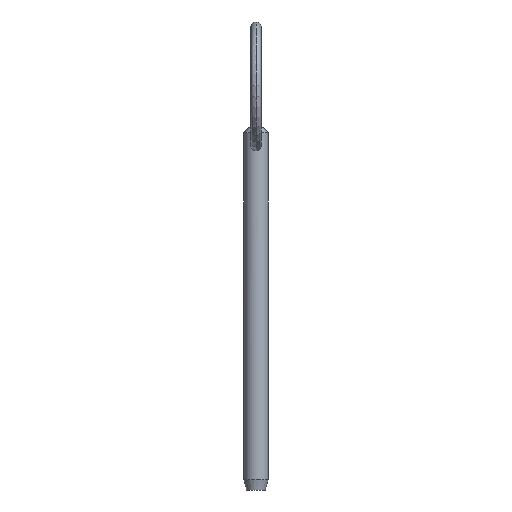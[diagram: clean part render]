
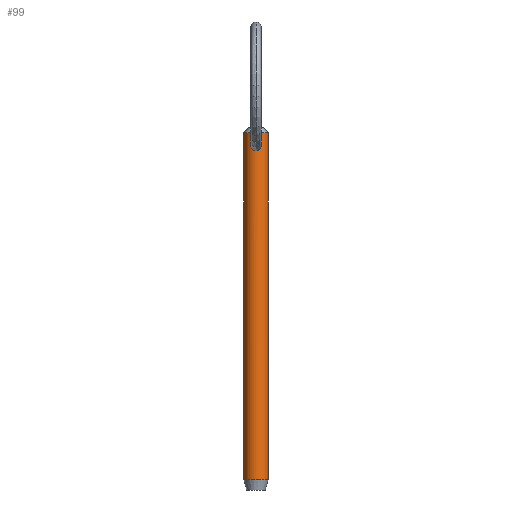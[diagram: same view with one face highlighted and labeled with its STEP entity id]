
A CAD part, front view. The second image highlights one B-rep face of the part: STEP entity #99.
In plain terms, the highlighted cylindrical face has radius 2.38 mm (diameter 4.76 mm), a partial arc.
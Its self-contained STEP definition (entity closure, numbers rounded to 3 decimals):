
#1 = CARTESIAN_POINT ( 'NONE',  ( -0.133, -2.38, 61.225 ) ) ;
#3 = EDGE_LOOP ( 'NONE', ( #115, #455, #427, #358 ) ) ;
#4 = VERTEX_POINT ( 'NONE', #341 ) ;
#13 = CARTESIAN_POINT ( 'NONE',  ( 0.865, -2.218, 62.74 ) ) ;
#31 = ORIENTED_EDGE ( 'NONE', *, *, #126, .T. ) ;
#38 = CARTESIAN_POINT ( 'NONE',  ( -0.982, -2.169, 61.965 ) ) ;
#40 = CARTESIAN_POINT ( 'NONE',  ( -0.134, -2.38, 63.268 ) ) ;
#41 = CARTESIAN_POINT ( 'NONE',  ( -0.811, -2.24, 61.606 ) ) ;
#45 = DIRECTION ( 'NONE',  ( 0., 0., -1. ) ) ;
#47 = EDGE_CURVE ( 'NONE', #441, #147, #58, .T. ) ;
#48 = CARTESIAN_POINT ( 'NONE',  ( 0.981, -2.169, 61.964 ) ) ;
#53 = DIRECTION ( 'NONE',  ( 0., 0., -1. ) ) ;
#54 = CARTESIAN_POINT ( 'NONE',  ( 0., -2.38, 61.225 ) ) ;
#58 = CIRCLE ( 'NONE', #252, 2.38 ) ;
#76 = DIRECTION ( 'NONE',  ( 1., 0., 0. ) ) ;
#87 = DIRECTION ( 'NONE',  ( 0., 0., -1. ) ) ;
#99 = ADVANCED_FACE ( 'NONE', ( #304, #400 ), #179, .T. ) ;
#101 = AXIS2_PLACEMENT_3D ( 'NONE', #474, #114, #258 ) ;
#114 = DIRECTION ( 'NONE',  ( 0., 0., -1. ) ) ;
#115 = ORIENTED_EDGE ( 'NONE', *, *, #302, .F. ) ;
#126 = EDGE_CURVE ( 'NONE', #473, #4, #307, .T. ) ;
#135 = CARTESIAN_POINT ( 'NONE',  ( 0., -2.38, 63.268 ) ) ;
#137 = DIRECTION ( 'NONE',  ( 0., 0., 1. ) ) ;
#147 = VERTEX_POINT ( 'NONE', #222 ) ;
#159 = CARTESIAN_POINT ( 'NONE',  ( -0.88, -2.219, 62.76 ) ) ;
#162 = LINE ( 'NONE', #173, #333 ) ;
#168 = AXIS2_PLACEMENT_3D ( 'NONE', #197, #45, #76 ) ;
#173 = CARTESIAN_POINT ( 'NONE',  ( -2.38, 0., 61. ) ) ;
#177 = CARTESIAN_POINT ( 'NONE',  ( 2.38, 0., 64.74 ) ) ;
#179 = CYLINDRICAL_SURFACE ( 'NONE', #101, 2.38 ) ;
#191 = CARTESIAN_POINT ( 'NONE',  ( -0.514, -2.327, 61.349 ) ) ;
#197 = CARTESIAN_POINT ( 'NONE',  ( 0., 0., 64.74 ) ) ;
#204 = CARTESIAN_POINT ( 'NONE',  ( 0.885, -2.21, 61.717 ) ) ;
#209 = CARTESIAN_POINT ( 'NONE',  ( 0.615, -2.301, 63.044 ) ) ;
#212 = CARTESIAN_POINT ( 'NONE',  ( 0.966, -2.176, 62.497 ) ) ;
#217 = CARTESIAN_POINT ( 'NONE',  ( 0., -2.38, 61.225 ) ) ;
#222 = CARTESIAN_POINT ( 'NONE',  ( 2.38, 0., -3.08 ) ) ;
#240 = CARTESIAN_POINT ( 'NONE',  ( 0.134, -2.38, 63.268 ) ) ;
#243 = CARTESIAN_POINT ( 'NONE',  ( 0., 0., -3.08 ) ) ;
#244 = CARTESIAN_POINT ( 'NONE',  ( 0.625, -2.299, 61.421 ) ) ;
#246 = CARTESIAN_POINT ( 'NONE',  ( 0.268, -2.368, 63.237 ) ) ;
#252 = AXIS2_PLACEMENT_3D ( 'NONE', #243, #137, #375 ) ;
#258 = DIRECTION ( 'NONE',  ( -1., 0., 0. ) ) ;
#260 = CARTESIAN_POINT ( 'NONE',  ( -0.626, -2.298, 61.422 ) ) ;
#262 = CARTESIAN_POINT ( 'NONE',  ( -0.991, -2.164, 62.501 ) ) ;
#265 = VECTOR ( 'NONE', #87, 1000. ) ;
#275 = B_SPLINE_CURVE_WITH_KNOTS ( 'NONE', 3,
 ( #135, #240, #246, #416, #209, #378, #13, #212, #454, #407, #48, #204, #453, #244, #342, #278, #451, #54 ),
 .UNSPECIFIED., .F., .F.,
 ( 4, 2, 2, 2, 2, 2, 2, 2, 4 ),
 ( 0.003, 0.003, 0.003, 0.004, 0.004, 0.005, 0.005, 0.005, 0.006 ),
 .UNSPECIFIED. ) ;
#278 = CARTESIAN_POINT ( 'NONE',  ( 0.268, -2.368, 61.251 ) ) ;
#279 = EDGE_CURVE ( 'NONE', #4, #473, #275, .T. ) ;
#294 = CIRCLE ( 'NONE', #168, 2.38 ) ;
#297 = CARTESIAN_POINT ( 'NONE',  ( -1.004, -2.158, 62.099 ) ) ;
#300 = CARTESIAN_POINT ( 'NONE',  ( 0., -2.38, 63.268 ) ) ;
#302 = EDGE_CURVE ( 'NONE', #432, #147, #377, .T. ) ;
#304 = FACE_OUTER_BOUND ( 'NONE', #3, .T. ) ;
#307 = B_SPLINE_CURVE_WITH_KNOTS ( 'NONE', 3,
 ( #393, #1, #324, #191, #260, #41, #357, #38, #297, #262, #159, #395, #435, #355, #40, #300 ),
 .UNSPECIFIED., .F., .F.,
 ( 4, 2, 2, 2, 2, 2, 2, 4 ),
 ( 0.006, 0.006, 0.007, 0.007, 0.007, 0.008, 0.009, 0.009 ),
 .UNSPECIFIED. ) ;
#309 = VERTEX_POINT ( 'NONE', #345 ) ;
#324 = CARTESIAN_POINT ( 'NONE',  ( -0.268, -2.368, 61.251 ) ) ;
#325 = ORIENTED_EDGE ( 'NONE', *, *, #279, .T. ) ;
#333 = VECTOR ( 'NONE', #53, 1000. ) ;
#341 = CARTESIAN_POINT ( 'NONE',  ( 0., -2.38, 63.268 ) ) ;
#342 = CARTESIAN_POINT ( 'NONE',  ( 0.513, -2.327, 61.348 ) ) ;
#345 = CARTESIAN_POINT ( 'NONE',  ( -2.38, 0., 64.74 ) ) ;
#349 = CARTESIAN_POINT ( 'NONE',  ( -2.38, 0., -3.08 ) ) ;
#355 = CARTESIAN_POINT ( 'NONE',  ( -0.267, -2.368, 63.237 ) ) ;
#357 = CARTESIAN_POINT ( 'NONE',  ( -0.885, -2.21, 61.717 ) ) ;
#358 = ORIENTED_EDGE ( 'NONE', *, *, #47, .T. ) ;
#367 = EDGE_CURVE ( 'NONE', #432, #309, #294, .T. ) ;
#374 = CARTESIAN_POINT ( 'NONE',  ( 2.38, 0., 61. ) ) ;
#375 = DIRECTION ( 'NONE',  ( -1., 0., 0. ) ) ;
#377 = LINE ( 'NONE', #374, #265 ) ;
#378 = CARTESIAN_POINT ( 'NONE',  ( 0.793, -2.246, 62.852 ) ) ;
#388 = EDGE_CURVE ( 'NONE', #309, #441, #162, .T. ) ;
#393 = CARTESIAN_POINT ( 'NONE',  ( 0., -2.38, 61.225 ) ) ;
#395 = CARTESIAN_POINT ( 'NONE',  ( -0.613, -2.302, 63.046 ) ) ;
#400 = FACE_BOUND ( 'NONE', #458, .T. ) ;
#407 = CARTESIAN_POINT ( 'NONE',  ( 1.003, -2.158, 62.099 ) ) ;
#416 = CARTESIAN_POINT ( 'NONE',  ( 0.508, -2.328, 63.124 ) ) ;
#427 = ORIENTED_EDGE ( 'NONE', *, *, #388, .T. ) ;
#432 = VERTEX_POINT ( 'NONE', #177 ) ;
#435 = CARTESIAN_POINT ( 'NONE',  ( -0.505, -2.329, 63.126 ) ) ;
#441 = VERTEX_POINT ( 'NONE', #349 ) ;
#451 = CARTESIAN_POINT ( 'NONE',  ( 0.133, -2.38, 61.225 ) ) ;
#453 = CARTESIAN_POINT ( 'NONE',  ( 0.811, -2.24, 61.606 ) ) ;
#454 = CARTESIAN_POINT ( 'NONE',  ( 0.996, -2.162, 62.364 ) ) ;
#455 = ORIENTED_EDGE ( 'NONE', *, *, #367, .T. ) ;
#458 = EDGE_LOOP ( 'NONE', ( #325, #31 ) ) ;
#473 = VERTEX_POINT ( 'NONE', #217 ) ;
#474 = CARTESIAN_POINT ( 'NONE',  ( 0., 0., 61. ) ) ;
